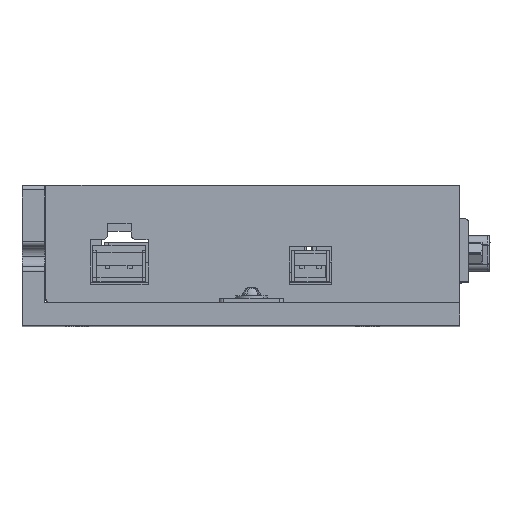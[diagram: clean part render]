
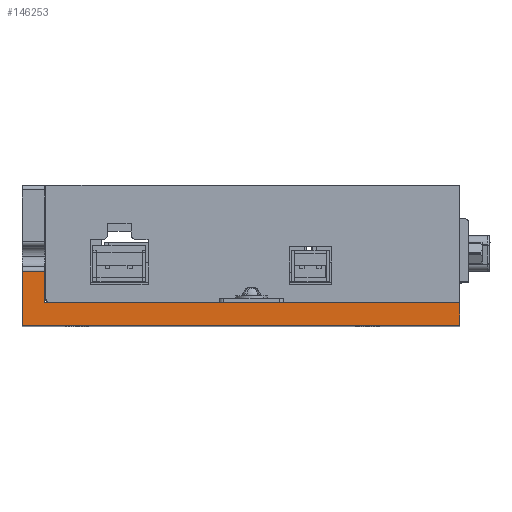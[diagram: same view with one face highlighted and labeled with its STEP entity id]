
A CAD part, top view. The second image highlights one B-rep face of the part: STEP entity #146253.
In plain terms, the highlighted planar face has unit normal (0, 0, 1).
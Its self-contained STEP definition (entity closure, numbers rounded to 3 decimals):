
#1775 = DIRECTION ( 'NONE',  ( 0., 1., 0. ) ) ;
#2986 = CARTESIAN_POINT ( 'NONE',  ( -51.248, -7.434, 258. ) ) ;
#5202 = VERTEX_POINT ( 'NONE', #194153 ) ;
#7704 = ORIENTED_EDGE ( 'NONE', *, *, #192174, .T. ) ;
#8202 = VERTEX_POINT ( 'NONE', #124876 ) ;
#12543 = VECTOR ( 'NONE', #168593, 1000. ) ;
#13810 = VECTOR ( 'NONE', #181336, 1000. ) ;
#19675 = CARTESIAN_POINT ( 'NONE',  ( 45.752, -14.434, 258. ) ) ;
#22106 = CARTESIAN_POINT ( 'NONE',  ( -51.248, -19.434, 258. ) ) ;
#23974 = VERTEX_POINT ( 'NONE', #22106 ) ;
#25904 = DIRECTION ( 'NONE',  ( -1., 0., 0. ) ) ;
#26255 = EDGE_CURVE ( 'NONE', #23974, #8202, #84915, .T. ) ;
#27836 = VECTOR ( 'NONE', #1775, 1000. ) ;
#28329 = LINE ( 'NONE', #172411, #93595 ) ;
#31784 = VECTOR ( 'NONE', #110397, 1000. ) ;
#44697 = DIRECTION ( 'NONE',  ( 0., 0., 1. ) ) ;
#47888 = DIRECTION ( 'NONE',  ( 1., 0., 0. ) ) ;
#47974 = VECTOR ( 'NONE', #187180, 1000. ) ;
#48897 = VERTEX_POINT ( 'NONE', #64670 ) ;
#50152 = AXIS2_PLACEMENT_3D ( 'NONE', #224292, #44697, #118366 ) ;
#50350 = LINE ( 'NONE', #193576, #129737 ) ;
#54073 = EDGE_LOOP ( 'NONE', ( #59286, #226350, #95640, #173420, #159281, #225933, #188313, #115790, #7704, #198227, #108424, #117379 ) ) ;
#59286 = ORIENTED_EDGE ( 'NONE', *, *, #197370, .T. ) ;
#60509 = CARTESIAN_POINT ( 'NONE',  ( -51.248, -19.434, 258. ) ) ;
#61857 = EDGE_CURVE ( 'NONE', #84457, #139284, #173657, .T. ) ;
#62893 = LINE ( 'NONE', #223714, #215605 ) ;
#64670 = CARTESIAN_POINT ( 'NONE',  ( -46.258, -7.434, 258. ) ) ;
#73289 = LINE ( 'NONE', #212860, #13810 ) ;
#73722 = CARTESIAN_POINT ( 'NONE',  ( 45.752, -19.434, 258. ) ) ;
#78470 = CARTESIAN_POINT ( 'NONE',  ( -46.248, -9.434, 258. ) ) ;
#78689 = VERTEX_POINT ( 'NONE', #19675 ) ;
#81242 = PLANE ( 'NONE',  #50152 ) ;
#82915 = CARTESIAN_POINT ( 'NONE',  ( 27.852, -14.444, 258. ) ) ;
#84457 = VERTEX_POINT ( 'NONE', #192778 ) ;
#84915 = LINE ( 'NONE', #60509, #47974 ) ;
#93595 = VECTOR ( 'NONE', #142224, 1000. ) ;
#95640 = ORIENTED_EDGE ( 'NONE', *, *, #61857, .T. ) ;
#95672 = VECTOR ( 'NONE', #25904, 1000. ) ;
#99697 = VERTEX_POINT ( 'NONE', #188641 ) ;
#99791 = CARTESIAN_POINT ( 'NONE',  ( -46.248, -14.434, 258. ) ) ;
#101093 = CARTESIAN_POINT ( 'NONE',  ( -51.248, -7.434, 258. ) ) ;
#101256 = EDGE_CURVE ( 'NONE', #78689, #5202, #73289, .T. ) ;
#101655 = CARTESIAN_POINT ( 'NONE',  ( 27.852, -14.444, 258. ) ) ;
#108076 = CARTESIAN_POINT ( 'NONE',  ( -51.248, 11.566, 258. ) ) ;
#108424 = ORIENTED_EDGE ( 'NONE', *, *, #234015, .F. ) ;
#110021 = VERTEX_POINT ( 'NONE', #2986 ) ;
#110397 = DIRECTION ( 'NONE',  ( 0., -1., 0. ) ) ;
#110808 = DIRECTION ( 'NONE',  ( 0., 1., 0. ) ) ;
#112283 = EDGE_CURVE ( 'NONE', #48897, #110021, #191879, .T. ) ;
#114151 = EDGE_CURVE ( 'NONE', #110021, #23974, #116764, .T. ) ;
#114761 = CARTESIAN_POINT ( 'NONE',  ( 45.752, -14.434, 258. ) ) ;
#115790 = ORIENTED_EDGE ( 'NONE', *, *, #26255, .T. ) ;
#116764 = LINE ( 'NONE', #108076, #31784 ) ;
#117379 = ORIENTED_EDGE ( 'NONE', *, *, #134019, .F. ) ;
#118366 = DIRECTION ( 'NONE',  ( 1., 0., 0. ) ) ;
#118489 = DIRECTION ( 'NONE',  ( 1., 0., 0. ) ) ;
#119947 = VERTEX_POINT ( 'NONE', #162775 ) ;
#124876 = CARTESIAN_POINT ( 'NONE',  ( 45.752, -19.434, 258. ) ) ;
#129737 = VECTOR ( 'NONE', #47888, 1000. ) ;
#134019 = EDGE_CURVE ( 'NONE', #99697, #172434, #163064, .T. ) ;
#139284 = VERTEX_POINT ( 'NONE', #78470 ) ;
#142224 = DIRECTION ( 'NONE',  ( 0., 1., 0. ) ) ;
#142789 = LINE ( 'NONE', #114761, #12543 ) ;
#146253 = ADVANCED_FACE ( 'NONE', ( #191668 ), #81242, .T. ) ;
#146378 = CARTESIAN_POINT ( 'NONE',  ( 17.352, -14.444, 258. ) ) ;
#157825 = EDGE_CURVE ( 'NONE', #48897, #119947, #62893, .T. ) ;
#158141 = LINE ( 'NONE', #73722, #27836 ) ;
#159281 = ORIENTED_EDGE ( 'NONE', *, *, #157825, .F. ) ;
#162775 = CARTESIAN_POINT ( 'NONE',  ( -46.258, -9.434, 258. ) ) ;
#163064 = LINE ( 'NONE', #82915, #166059 ) ;
#166059 = VECTOR ( 'NONE', #118489, 1000. ) ;
#166718 = CARTESIAN_POINT ( 'NONE',  ( 17.352, -14.434, 258. ) ) ;
#167995 = VECTOR ( 'NONE', #190757, 1000. ) ;
#168593 = DIRECTION ( 'NONE',  ( -1., 0., 0. ) ) ;
#170807 = LINE ( 'NONE', #146378, #221555 ) ;
#172411 = CARTESIAN_POINT ( 'NONE',  ( 27.852, -14.444, 258. ) ) ;
#172434 = VERTEX_POINT ( 'NONE', #101655 ) ;
#173420 = ORIENTED_EDGE ( 'NONE', *, *, #185584, .F. ) ;
#173657 = LINE ( 'NONE', #99791, #167995 ) ;
#181336 = DIRECTION ( 'NONE',  ( -1., 0., 0. ) ) ;
#185584 = EDGE_CURVE ( 'NONE', #119947, #139284, #50350, .T. ) ;
#187180 = DIRECTION ( 'NONE',  ( 1., 0., 0. ) ) ;
#188313 = ORIENTED_EDGE ( 'NONE', *, *, #114151, .T. ) ;
#188641 = CARTESIAN_POINT ( 'NONE',  ( 17.352, -14.444, 258. ) ) ;
#190757 = DIRECTION ( 'NONE',  ( 0., 1., 0. ) ) ;
#191668 = FACE_OUTER_BOUND ( 'NONE', #54073, .T. ) ;
#191879 = LINE ( 'NONE', #101093, #95672 ) ;
#192174 = EDGE_CURVE ( 'NONE', #8202, #78689, #158141, .T. ) ;
#192630 = VERTEX_POINT ( 'NONE', #166718 ) ;
#192778 = CARTESIAN_POINT ( 'NONE',  ( -46.248, -14.434, 258. ) ) ;
#193576 = CARTESIAN_POINT ( 'NONE',  ( -46.258, -9.434, 258. ) ) ;
#194153 = CARTESIAN_POINT ( 'NONE',  ( 27.852, -14.434, 258. ) ) ;
#197370 = EDGE_CURVE ( 'NONE', #99697, #192630, #170807, .T. ) ;
#198227 = ORIENTED_EDGE ( 'NONE', *, *, #101256, .T. ) ;
#201941 = EDGE_CURVE ( 'NONE', #192630, #84457, #142789, .T. ) ;
#208726 = DIRECTION ( 'NONE',  ( 0., -1., 0. ) ) ;
#212860 = CARTESIAN_POINT ( 'NONE',  ( 45.752, -14.434, 258. ) ) ;
#215605 = VECTOR ( 'NONE', #208726, 1000. ) ;
#221555 = VECTOR ( 'NONE', #110808, 1000. ) ;
#223714 = CARTESIAN_POINT ( 'NONE',  ( -46.258, 1.066, 258. ) ) ;
#224292 = CARTESIAN_POINT ( 'NONE',  ( -51.248, -19.434, 258. ) ) ;
#225933 = ORIENTED_EDGE ( 'NONE', *, *, #112283, .T. ) ;
#226350 = ORIENTED_EDGE ( 'NONE', *, *, #201941, .T. ) ;
#234015 = EDGE_CURVE ( 'NONE', #172434, #5202, #28329, .T. ) ;
